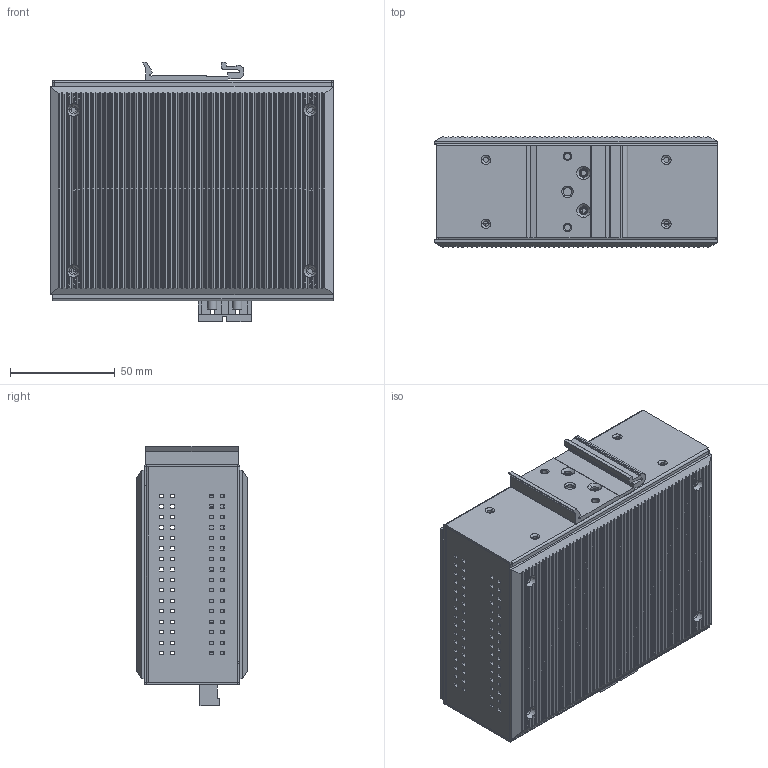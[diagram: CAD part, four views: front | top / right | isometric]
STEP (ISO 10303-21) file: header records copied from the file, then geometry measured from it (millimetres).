
FILE_DESCRIPTION((''),'2;1');
FILE_NAME('IMC-101-M-SC','2010-08-19T',('Chialu_Chang'),(''),'PRO/ENGINEER BY PARAMETRIC TECHNOLOGY CORPORATION, 2004440','PRO/ENGINEER BY PARAMETRIC TECHNOLOGY CORPORATION, 2004440','');
FILE_SCHEMA(('CONFIG_CONTROL_DESIGN'));
Length unit declared in the file: millimetre
Products named in the file (1): IMC-101-M-SC
Bounding box: 135.11 x 52.98 x 123.93 mm (x, y, z)
Surface area: 231237.8 mm2 (no closed solid volume)
Topology: 0 solids, 41 shells, 2178 faces, 5861 edges, 3813 vertices
Faces by surface type: plane 1338, cylinder 684, cone 106, torus 40, bspline 10
Entity records: 68740 total; most frequent: CARTESIAN_POINT 14066, ORIENTED_EDGE 11634, DIRECTION 10649, EDGE_CURVE 5841, VECTOR 4023, LINE 4023, VERTEX_POINT 3813, AXIS2_PLACEMENT_3D 3313
